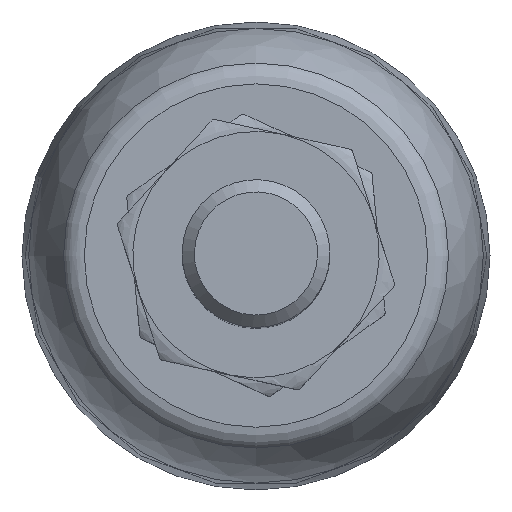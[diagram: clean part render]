
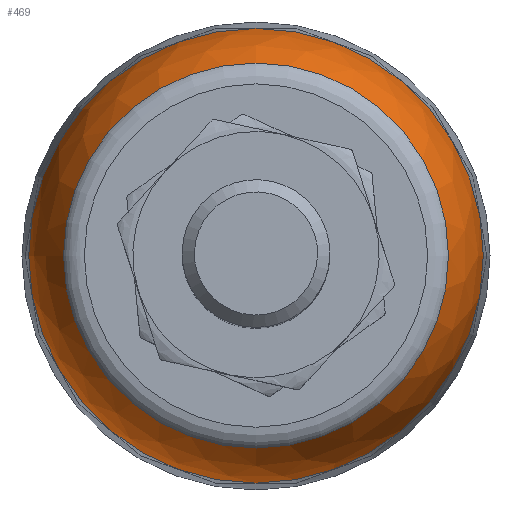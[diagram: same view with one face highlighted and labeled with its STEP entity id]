
A CAD part, top view. The second image highlights one B-rep face of the part: STEP entity #469.
In plain terms, the highlighted spherical face has radius 9.241 mm.
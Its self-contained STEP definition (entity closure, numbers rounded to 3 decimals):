
#469=ADVANCED_FACE('',(#782,#783),#784,.T.);
#782=FACE_OUTER_BOUND('',#1268,.T.);
#783=FACE_OUTER_BOUND('',#1269,.T.);
#784=SPHERICAL_SURFACE('',#1270,9.241);
#1268=EDGE_LOOP('',(#1842));
#1269=EDGE_LOOP('',(#1843));
#1270=AXIS2_PLACEMENT_3D('',#1844,#1845,#1846);
#1842=ORIENTED_EDGE('',*,*,#2076,.F.);
#1843=ORIENTED_EDGE('',*,*,#2059,.T.);
#1844=CARTESIAN_POINT('',(0.,0.0,5.001));
#1845=DIRECTION('',(0.0,0.0,-1.0));
#1846=DIRECTION('',(-1.0,0.0,0.0));
#2059=EDGE_CURVE('',#2366,#2366,#2367,.T.);
#2076=EDGE_CURVE('',#2393,#2393,#2394,.T.);
#2366=VERTEX_POINT('',#3207);
#2367=CIRCLE('',#3208,7.815);
#2393=VERTEX_POINT('',#3234);
#2394=CIRCLE('',#3235,9.23);
#3207=CARTESIAN_POINT('',(-7.815,0.0,9.934));
#3208=AXIS2_PLACEMENT_3D('',#3448,#3449,#3450);
#3234=CARTESIAN_POINT('',(-9.23,0.0,5.457));
#3235=AXIS2_PLACEMENT_3D('',#3478,#3479,#3480);
#3448=CARTESIAN_POINT('',(0.0,0.0,9.934));
#3449=DIRECTION('',(0.0,0.0,-1.0));
#3450=DIRECTION('',(-1.0,0.0,0.0));
#3478=CARTESIAN_POINT('',(0.0,0.0,5.457));
#3479=DIRECTION('',(0.0,0.0,-1.0));
#3480=DIRECTION('',(-1.0,0.0,0.0));
